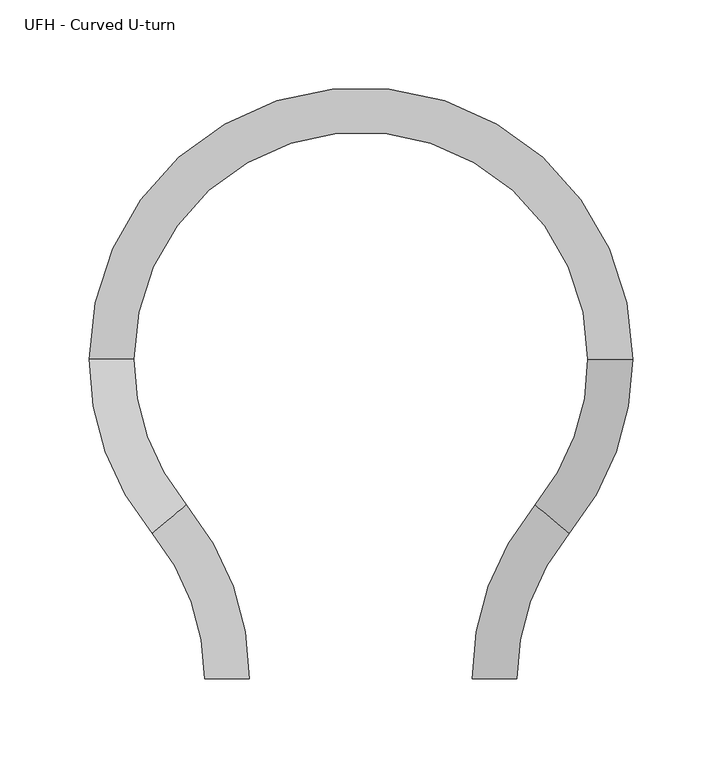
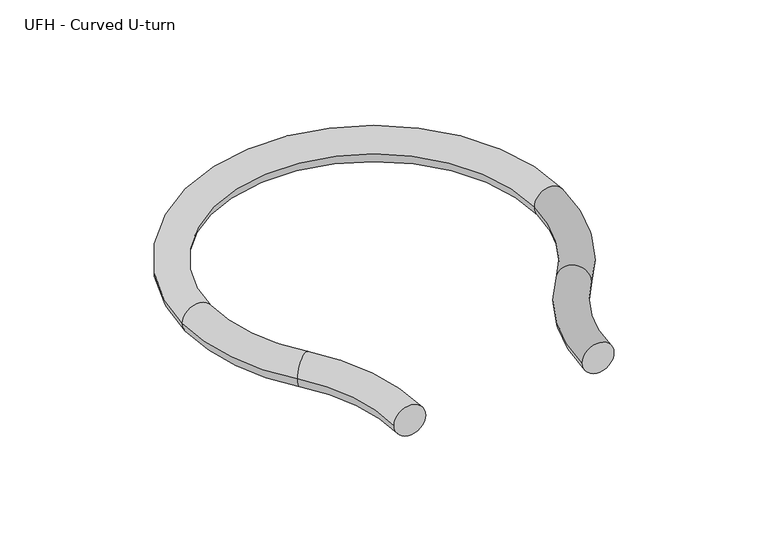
"""IFC4 building model written with IfcOpenShell, lengths in millimetres: pipe fitting geometry, UFH - Curved U-turn : Superpipe 2+ UFH Curved U-turn  - VA150."""

from ifc_helpers import new_model, si_unit, point, frame, origin, place, context, project, spatial, circle_curve, ellipse_curve, trimmed, source, transform, mapped, element, save
from ifc_brep_helpers import plane_surface, revolved_surface, advanced_brep


def ufh_curved_u_turn_771e7ece(model_context):
    return source(origin(), model_context, "Body", "AdvancedBrep", [
        advanced_brep(
        [(12.5, 0.0, 0.0), (-12.5, 0.0, 0.0), (-42.0982143, 81.6791917, 0.0), (-22.9017857, 97.6947195, 0.0), (-77.5000002, 179.3739111, 0.0), (-52.5000002, 179.3739111, 0.0), (227.4999998, 179.3739111, 0.0), (202.4999998, 179.3739111, 0.0), (192.0982142, 81.6791917, 0.0), (172.9017856, 97.6947195, 0.0), (137.5, 0.0, 0.0), (162.5, 0.0, 0.0)],
        [
            (0, 1, circle_curve(frame((0.0, 0.0, 0.0), z_axis=(0.0, -1.0, 0.0), x_axis=(-1.0, 0.0, 0.0)), 12.5)),
            (1, 0, circle_curve(frame((0.0, 0.0, 0.0), z_axis=(0.0, -1.0, 0.0), x_axis=(-1.0, 0.0, 0.0)), 12.5)),
            (2, 1, circle_curve(frame((-140.0, 0.0, 0.0), z_axis=(0.0, 0.0, -1.0), x_axis=(1.0, 0.0, 0.0)), 127.5)),
            (0, 3, circle_curve(frame((-140.0, 0.0, 0.0), z_axis=(0.0, 0.0, 1.0), x_axis=(1.0, 0.0, 0.0)), 152.5)),
            (3, 2, circle_curve(frame((-32.5, 89.6869556, 0.0), z_axis=(0.6406211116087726, -0.7678571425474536, 0.0), x_axis=(-0.7678571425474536, -0.6406211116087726, 0.0)), 12.5)),
            (2, 3, circle_curve(frame((-32.5, 89.6869556, 0.0), z_axis=(0.6406211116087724, -0.7678571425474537, 0.0), x_axis=(-0.7678571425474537, -0.6406211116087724, 0.0)), 12.5)),
            (4, 2, circle_curve(frame((74.9999998, 179.3739111, 0.0), z_axis=(0.0, 0.0, 1.0), x_axis=(-0.7678571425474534, -0.6406211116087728, 0.0)), 152.5)),
            (3, 5, circle_curve(frame((74.9999998, 179.3739111, 0.0), z_axis=(0.0, 0.0, -1.0), x_axis=(-0.7678571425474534, -0.6406211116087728, 0.0)), 127.5)),
            (5, 4, circle_curve(frame((-65.0000002, 179.3739111, 0.0), z_axis=(0.0, -0.9999999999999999, 0.0), x_axis=(-0.9999999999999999, 0.0, 0.0)), 12.5)),
            (4, 5, circle_curve(frame((-65.0000002, 179.3739111, 0.0), z_axis=(0.0, -0.9999999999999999, 0.0), x_axis=(-0.9999999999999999, 0.0, 0.0)), 12.5)),
            (6, 4, circle_curve(frame((74.9999998, 179.3739111, 0.0), z_axis=(0.0, 0.0, 1.0), x_axis=(-1.0, 0.0, 0.0)), 152.5)),
            (5, 7, circle_curve(frame((74.9999998, 179.3739111, 0.0), z_axis=(0.0, 0.0, -1.0), x_axis=(-1.0, 0.0, 0.0)), 127.5)),
            (7, 6, circle_curve(frame((214.9999998, 179.3739111, 0.0), z_axis=(0.0, 1.0, 0.0), x_axis=(1.0, 0.0, 0.0)), 12.5)),
            (6, 7, circle_curve(frame((214.9999998, 179.3739111, 0.0), z_axis=(0.0, 1.0, 0.0), x_axis=(1.0, 0.0, 0.0)), 12.5)),
            (8, 6, circle_curve(frame((74.9999998, 179.3739111, 0.0), z_axis=(0.0, 0.0, 1.0), x_axis=(1.0, 0.0, 0.0)), 152.5)),
            (7, 9, circle_curve(frame((74.9999998, 179.3739111, 0.0), z_axis=(0.0, 0.0, -1.0), x_axis=(1.0, 0.0, 0.0)), 127.5)),
            (9, 8, circle_curve(frame((182.4999999, 89.6869556, 0.0), z_axis=(0.6406211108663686, 0.7678571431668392, 0.0), x_axis=(0.7678571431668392, -0.6406211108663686, 0.0)), 12.5)),
            (8, 9, circle_curve(frame((182.4999999, 89.6869556, 0.0), z_axis=(0.6406211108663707, 0.7678571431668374, 0.0), x_axis=(0.7678571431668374, -0.6406211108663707, 0.0)), 12.5)),
            (10, 11, circle_curve(frame((150.0, 0.0, 0.0), z_axis=(0.0, -1.0, 0.0), x_axis=(1.0, 0.0, 0.0)), 12.5)),
            (11, 10, circle_curve(frame((150.0, 0.0, 0.0), z_axis=(0.0, -1.0, 0.0), x_axis=(1.0, 0.0, 0.0)), 12.5)),
            (11, 8, circle_curve(frame((290.0, 0.0, 0.0), z_axis=(0.0, 0.0, -1.0), x_axis=(-0.7678571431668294, 0.6406211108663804, 0.0)), 127.5)),
            (9, 10, circle_curve(frame((290.0, 0.0, 0.0), z_axis=(0.0, 0.0, 1.0), x_axis=(-0.7678571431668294, 0.6406211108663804, 0.0)), 152.5)),
        ],
        [
            plane_surface(frame((0.0, 0.0, 0.0), z_axis=(0.0, -1.0, 0.0), x_axis=(0.0, 0.0, 1.0))),
            revolved_surface(trimmed(ellipse_curve(frame((0.0, 0.0, 0.0), z_axis=(0.0, -1.0, 0.0), x_axis=(-1.0, 0.0, 0.0)), 12.5, 12.5), [point((12.5, 0.0, 0.0))], [point((-12.5, 0.0, 0.0))], True, "CARTESIAN"), (-140.0, 0.0, 0.0), (0.0, 0.0, 1.0)),
            revolved_surface(trimmed(ellipse_curve(frame((0.0, 0.0, 0.0), z_axis=(0.0, -1.0, 0.0), x_axis=(-1.0, 0.0, 0.0)), 12.5, 12.5), [point((-12.5, 0.0, 0.0))], [point((12.5, 0.0, 0.0))], True, "CARTESIAN"), (-140.0, 0.0, 0.0), (0.0, 0.0, 1.0)),
            revolved_surface(trimmed(ellipse_curve(frame((-32.5000001, 89.6869555, 0.0), z_axis=(0.6406211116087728, -0.7678571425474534, 0.0), x_axis=(-0.7678571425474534, -0.6406211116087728, 0.0)), 12.5, 12.5), [point((-22.9017858, 97.6947194, 0.0))], [point((-42.0982144, 81.6791916, 0.0))], True, "CARTESIAN"), (74.9999998, 179.3739111, 0.0), (0.0, 0.0, -1.0)),
            revolved_surface(trimmed(ellipse_curve(frame((-32.5000001, 89.6869555, 0.0), z_axis=(0.6406211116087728, -0.7678571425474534, 0.0), x_axis=(-0.7678571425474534, -0.6406211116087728, 0.0)), 12.5, 12.5), [point((-42.0982144, 81.6791916, 0.0))], [point((-22.9017858, 97.6947194, 0.0))], True, "CARTESIAN"), (74.9999998, 179.3739111, 0.0), (0.0, 0.0, -1.0)),
            revolved_surface(trimmed(ellipse_curve(frame((-65.0000002, 179.3739111, 0.0), z_axis=(0.0, -1.0, 0.0), x_axis=(-1.0, 0.0, 0.0)), 12.5, 12.5), [point((-52.5000002, 179.3739111, 0.0))], [point((-77.5000002, 179.3739111, 0.0))], True, "CARTESIAN"), (74.9999998, 179.3739111, 0.0), (0.0, 0.0, -1.0)),
            revolved_surface(trimmed(ellipse_curve(frame((-65.0000002, 179.3739111, 0.0), z_axis=(0.0, -1.0, 0.0), x_axis=(-1.0, 0.0, 0.0)), 12.5, 12.5), [point((-77.5000002, 179.3739111, 0.0))], [point((-52.5000002, 179.3739111, 0.0))], True, "CARTESIAN"), (74.9999998, 179.3739111, 0.0), (0.0, 0.0, -1.0)),
            revolved_surface(trimmed(ellipse_curve(frame((214.9999998, 179.3739111, 0.0), z_axis=(0.0, 1.0, 0.0), x_axis=(1.0, 0.0, 0.0)), 12.5, 12.5), [point((202.4999998, 179.3739111, 0.0))], [point((227.4999998, 179.3739111, 0.0))], True, "CARTESIAN"), (74.9999998, 179.3739111, 0.0), (0.0, 0.0, -1.0)),
            revolved_surface(trimmed(ellipse_curve(frame((214.9999998, 179.3739111, 0.0), z_axis=(0.0, 1.0, 0.0), x_axis=(1.0, 0.0, 0.0)), 12.5, 12.5), [point((227.4999998, 179.3739111, 0.0))], [point((202.4999998, 179.3739111, 0.0))], True, "CARTESIAN"), (74.9999998, 179.3739111, 0.0), (0.0, 0.0, -1.0)),
            plane_surface(frame((150.0, 0.0, 0.0), z_axis=(0.0, -1.0, 0.0), x_axis=(0.0, 0.0, 1.0))),
            revolved_surface(trimmed(ellipse_curve(frame((182.5, 89.6869555, 0.0), z_axis=(0.6406211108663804, 0.7678571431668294, 0.0), x_axis=(0.7678571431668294, -0.6406211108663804, 0.0)), 12.5, 12.5), [point((172.9017857, 97.6947194, 0.0))], [point((192.0982143, 81.6791916, 0.0))], True, "CARTESIAN"), (290.0, 0.0, 0.0), (0.0, 0.0, 1.0)),
            revolved_surface(trimmed(ellipse_curve(frame((182.5, 89.6869555, 0.0), z_axis=(0.6406211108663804, 0.7678571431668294, 0.0), x_axis=(0.7678571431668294, -0.6406211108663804, 0.0)), 12.5, 12.5), [point((192.0982143, 81.6791916, 0.0))], [point((172.9017857, 97.6947194, 0.0))], True, "CARTESIAN"), (290.0, 0.0, 0.0), (0.0, 0.0, 1.0)),
        ],
        [
            (0, [[1, 2]]),
            (1, [[3, -1, 4, 5]]),
            (2, [[-4, -2, -3, 6]]),
            (3, [[7, -5, 8, 9]]),
            (4, [[-8, -6, -7, 10]]),
            (5, [[11, -9, 12, 13]]),
            (6, [[-12, -10, -11, 14]]),
            (7, [[15, -13, 16, 17]]),
            (8, [[-16, -14, -15, 18]]),
            (9, [[19, 20]]),
            (10, [[21, -17, 22, -20]]),
            (11, [[-22, -18, -21, -19]]),
        ],
    ),
    ])


if __name__ == "__main__":
    model = new_model("IFC4")
    model_context = context("Model", 3, world=origin())
    ifc_project = project(units=[si_unit("LENGTHUNIT", "METRE", prefix="MILLI")], contexts=[model_context])
    site = spatial("IfcSite", under=ifc_project)
    building = spatial("IfcBuilding", under=site)
    placement = place(None, origin())
    ufh_curved_u_turn_shape = ufh_curved_u_turn_771e7ece(model_context)
    element("IfcPipeFitting", 1, ObjectType="UFH - Curved U-turn : Superpipe 2+ UFH Curved U-turn  - VA150", at=placement, inside=building, context=model_context, shape_type="MappedRepresentation", body=[
        mapped(ufh_curved_u_turn_shape, transform((0.0, 0.0, 0.0), x_axis=(1.0, 0.0, 0.0), y_axis=(0.0, 1.0, 0.0), z_axis=(0.0, 0.0, 1.0))),
    ])
    save(model, "model.ifc")
